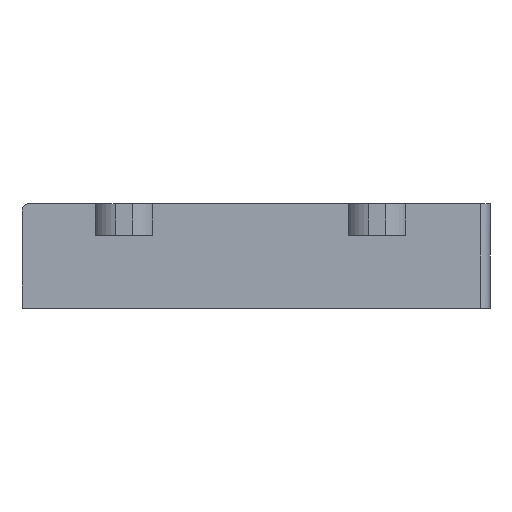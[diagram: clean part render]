
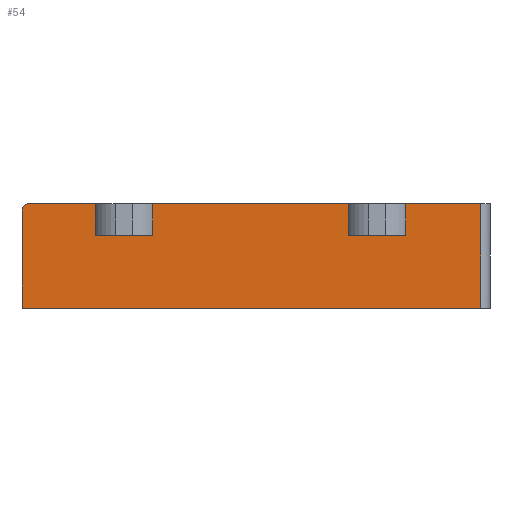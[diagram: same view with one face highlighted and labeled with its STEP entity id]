
A CAD part, front view. The second image highlights one B-rep face of the part: STEP entity #54.
In plain terms, the highlighted planar face has unit normal (0, -1, 0).
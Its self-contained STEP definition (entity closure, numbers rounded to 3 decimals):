
#54=ADVANCED_FACE('0:33',(#90),#91,.F.);
#90=FACE_OUTER_BOUND('',#153,.T.);
#91=PLANE('',#154);
#153=EDGE_LOOP('',(#12889,#12890,#12891,#12892,#12893,#12894,#12895,#12896,#12897,#12898,#12899,#12900,#12901));
#154=AXIS2_PLACEMENT_3D('',#12902,#12903,#12904);
#12889=ORIENTED_EDGE('',*,*,#13087,.F.);
#12890=ORIENTED_EDGE('',*,*,#13088,.T.);
#12891=ORIENTED_EDGE('',*,*,#13089,.F.);
#12892=ORIENTED_EDGE('',*,*,#13090,.T.);
#12893=ORIENTED_EDGE('',*,*,#13091,.F.);
#12894=ORIENTED_EDGE('',*,*,#13092,.F.);
#12895=ORIENTED_EDGE('',*,*,#13093,.T.);
#12896=ORIENTED_EDGE('',*,*,#13094,.F.);
#12897=ORIENTED_EDGE('',*,*,#13095,.F.);
#12898=ORIENTED_EDGE('',*,*,#13096,.F.);
#12899=ORIENTED_EDGE('',*,*,#13083,.T.);
#12900=ORIENTED_EDGE('',*,*,#13097,.F.);
#12901=ORIENTED_EDGE('',*,*,#13098,.T.);
#12902=CARTESIAN_POINT('',(2253.306,154.23,1045.92));
#12903=DIRECTION('',(0.0,1.0,0.0));
#12904=DIRECTION('',(1.0,0.0,-0.0));
#13083=EDGE_CURVE('0:132',#13170,#13171,#13172,.T.);
#13087=EDGE_CURVE('0:144',#13178,#13179,#13180,.F.);
#13088=EDGE_CURVE('0:147',#13178,#13181,#13182,.T.);
#13089=EDGE_CURVE('0:150',#13183,#13181,#13184,.T.);
#13090=EDGE_CURVE('0:153',#13183,#13185,#13186,.T.);
#13091=EDGE_CURVE('0:156',#13187,#13185,#13188,.F.);
#13092=EDGE_CURVE('0:159',#13189,#13187,#13190,.T.);
#13093=EDGE_CURVE('0:162',#13189,#13191,#13192,.T.);
#13094=EDGE_CURVE('0:165',#13193,#13191,#13194,.T.);
#13095=EDGE_CURVE('0:168',#13195,#13193,#13196,.T.);
#13096=EDGE_CURVE('0:171',#13170,#13195,#13197,.T.);
#13097=EDGE_CURVE('0:174',#13198,#13171,#13199,.T.);
#13098=EDGE_CURVE('0:177',#13198,#13179,#13200,.T.);
#13170=VERTEX_POINT('',#13511);
#13171=VERTEX_POINT('',#13512);
#13172=LINE('',#13513,#13514);
#13178=VERTEX_POINT('',#13521);
#13179=VERTEX_POINT('',#13522);
#13180=LINE('',#13523,#13524);
#13181=VERTEX_POINT('',#13525);
#13182=LINE('',#13526,#13527);
#13183=VERTEX_POINT('',#13528);
#13184=LINE('',#13529,#13530);
#13185=VERTEX_POINT('',#13531);
#13186=LINE('',#13532,#13533);
#13187=VERTEX_POINT('',#13534);
#13188=LINE('',#13535,#13536);
#13189=VERTEX_POINT('',#13537);
#13190=B_SPLINE_CURVE_WITH_KNOTS('',3,(#13538,#13539,#13540,#13541,#13542,#13543,#13544,#13545,#13546,#13547,#13548,#13549,#13550,#13551,#13552,#13553,#13554,#13555,#13556,#13557,#13558,#13559,#13560,#13561,#13562,#13563,#13564,#13565,#13566,#13567,#13568,#13569,#13570,#13571,#13572,#13573,#13574,#13575,#13576,#13577,#13578,#13579,#13580,#13581,#13582,#13583,#13584,#13585,#13586,#13587,#13588,#13589),.UNSPECIFIED.,.F.,.F.,(4,3,3,3,3,3,3,3,3,3,3,3,3,3,3,3,3,4),(0.,0.001,0.001,0.002,0.002,0.003,0.003,0.003,0.004,0.004,0.005,0.005,0.006,0.006,0.006,0.007,0.007,0.008),.UNSPECIFIED.);
#13191=VERTEX_POINT('',#13590);
#13192=LINE('',#13591,#13592);
#13193=VERTEX_POINT('',#13593);
#13194=LINE('',#13594,#13595);
#13195=VERTEX_POINT('NONE',#13596);
#13196=LINE('',#13597,#13598);
#13197=LINE('',#13599,#13600);
#13198=VERTEX_POINT('',#13601);
#13199=LINE('',#13602,#13603);
#13200=LINE('',#13604,#13605);
#13511=CARTESIAN_POINT('',(1497.84,154.23,1045.92));
#13512=CARTESIAN_POINT('',(1497.84,154.23,730.92));
#13513=CARTESIAN_POINT('',(1497.84,154.23,1255.92));
#13514=VECTOR('',#14677,0.001);
#13521=CARTESIAN_POINT('',(-1035.233,154.23,1045.92));
#13522=CARTESIAN_POINT('',(926.263,154.23,1045.92));
#13523=CARTESIAN_POINT('',(1732.679,154.23,1045.92));
#13524=VECTOR('',#14685,0.001);
#13525=CARTESIAN_POINT('',(-1035.233,154.23,730.92));
#13526=CARTESIAN_POINT('',(-1035.233,154.23,1255.92));
#13527=VECTOR('',#14686,0.001);
#13528=CARTESIAN_POINT('',(-1606.81,154.23,730.92));
#13529=CARTESIAN_POINT('',(466.142,154.23,730.92));
#13530=VECTOR('',#14687,0.015);
#13531=CARTESIAN_POINT('',(-1606.81,154.23,1045.92));
#13532=CARTESIAN_POINT('',(-1606.81,154.23,1255.92));
#13533=VECTOR('',#14688,0.001);
#13534=CARTESIAN_POINT('',(-2267.786,154.23,1045.92));
#13535=CARTESIAN_POINT('',(466.142,154.23,1045.92));
#13536=VECTOR('',#14689,0.001);
#13537=CARTESIAN_POINT('',(-2342.787,154.23,970.92));
#13538=CARTESIAN_POINT('',(-2342.787,154.23,970.92));
#13539=CARTESIAN_POINT('',(-2342.787,154.23,973.731));
#13540=CARTESIAN_POINT('',(-2342.629,154.23,976.535));
#13541=CARTESIAN_POINT('',(-2342.316,154.23,979.317));
#13542=CARTESIAN_POINT('',(-2342.001,154.23,982.106));
#13543=CARTESIAN_POINT('',(-2341.531,154.23,984.875));
#13544=CARTESIAN_POINT('',(-2340.907,154.23,987.609));
#13545=CARTESIAN_POINT('',(-2340.283,154.23,990.341));
#13546=CARTESIAN_POINT('',(-2339.506,154.23,993.04));
#13547=CARTESIAN_POINT('',(-2338.578,154.23,995.691));
#13548=CARTESIAN_POINT('',(-2337.653,154.23,998.336));
#13549=CARTESIAN_POINT('',(-2336.575,154.23,1000.937));
#13550=CARTESIAN_POINT('',(-2335.36,154.23,1003.461));
#13551=CARTESIAN_POINT('',(-2334.141,154.23,1005.992));
#13552=CARTESIAN_POINT('',(-2332.782,154.23,1008.449));
#13553=CARTESIAN_POINT('',(-2331.291,154.23,1010.822));
#13554=CARTESIAN_POINT('',(-2331.084,154.23,1011.152));
#13555=CARTESIAN_POINT('',(-2330.875,154.23,1011.479));
#13556=CARTESIAN_POINT('',(-2330.663,154.23,1011.805));
#13557=CARTESIAN_POINT('',(-2329.346,154.23,1013.83));
#13558=CARTESIAN_POINT('',(-2327.932,154.23,1015.791));
#13559=CARTESIAN_POINT('',(-2326.424,154.23,1017.682));
#13560=CARTESIAN_POINT('',(-2324.865,154.23,1019.637));
#13561=CARTESIAN_POINT('',(-2323.205,154.23,1021.517));
#13562=CARTESIAN_POINT('',(-2321.452,154.23,1023.313));
#13563=CARTESIAN_POINT('',(-2321.242,154.23,1023.528));
#13564=CARTESIAN_POINT('',(-2321.032,154.23,1023.741));
#13565=CARTESIAN_POINT('',(-2320.82,154.23,1023.953));
#13566=CARTESIAN_POINT('',(-2318.832,154.23,1025.941));
#13567=CARTESIAN_POINT('',(-2316.738,154.23,1027.811));
#13568=CARTESIAN_POINT('',(-2314.548,154.23,1029.557));
#13569=CARTESIAN_POINT('',(-2312.354,154.23,1031.307));
#13570=CARTESIAN_POINT('',(-2310.064,154.23,1032.932));
#13571=CARTESIAN_POINT('',(-2307.689,154.23,1034.424));
#13572=CARTESIAN_POINT('',(-2305.316,154.23,1035.915));
#13573=CARTESIAN_POINT('',(-2302.859,154.23,1037.274));
#13574=CARTESIAN_POINT('',(-2300.328,154.23,1038.493));
#13575=CARTESIAN_POINT('',(-2299.775,154.23,1038.759));
#13576=CARTESIAN_POINT('',(-2299.219,154.23,1039.018));
#13577=CARTESIAN_POINT('',(-2298.659,154.23,1039.271));
#13578=CARTESIAN_POINT('',(-2296.663,154.23,1040.173));
#13579=CARTESIAN_POINT('',(-2294.625,154.23,1040.988));
#13580=CARTESIAN_POINT('',(-2292.557,154.23,1041.711));
#13581=CARTESIAN_POINT('',(-2289.91,154.23,1042.638));
#13582=CARTESIAN_POINT('',(-2287.212,154.23,1043.415));
#13583=CARTESIAN_POINT('',(-2284.475,154.23,1044.04));
#13584=CARTESIAN_POINT('',(-2281.74,154.23,1044.664));
#13585=CARTESIAN_POINT('',(-2278.969,154.23,1045.135));
#13586=CARTESIAN_POINT('',(-2276.184,154.23,1045.448));
#13587=CARTESIAN_POINT('',(-2273.397,154.23,1045.762));
#13588=CARTESIAN_POINT('',(-2270.594,154.23,1045.92));
#13589=CARTESIAN_POINT('',(-2267.786,154.23,1045.92));
#13590=CARTESIAN_POINT('',(-2342.787,154.23,0.0));
#13591=CARTESIAN_POINT('',(-2342.787,154.23,1045.92));
#13592=VECTOR('',#14690,0.015);
#13593=CARTESIAN_POINT('',(2253.306,154.23,0.0));
#13594=CARTESIAN_POINT('',(1126.653,154.23,0.0));
#13595=VECTOR('',#14691,0.001);
#13596=CARTESIAN_POINT('',(2253.306,154.23,1045.92));
#13597=CARTESIAN_POINT('',(2253.306,154.23,1045.92));
#13598=VECTOR('',#14692,0.015);
#13599=CARTESIAN_POINT('',(2253.306,154.23,1045.92));
#13600=VECTOR('',#14693,0.015);
#13601=CARTESIAN_POINT('',(926.263,154.23,730.92));
#13602=CARTESIAN_POINT('',(2253.306,154.23,730.92));
#13603=VECTOR('',#14694,0.015);
#13604=CARTESIAN_POINT('',(926.263,154.23,1255.92));
#13605=VECTOR('',#14695,0.001);
#14677=DIRECTION('',(-0.0,-0.0,-1.0));
#14685=DIRECTION('',(-1.0,0.0,0.0));
#14686=DIRECTION('',(-0.0,-0.0,-1.0));
#14687=DIRECTION('',(1.0,0.0,0.0));
#14688=DIRECTION('',(0.0,0.0,1.0));
#14689=DIRECTION('',(-1.0,0.0,0.0));
#14690=DIRECTION('',(-0.0,-0.0,-1.0));
#14691=DIRECTION('',(-1.0,0.0,0.0));
#14692=DIRECTION('',(-0.0,-0.0,-1.0));
#14693=DIRECTION('',(1.0,0.0,0.0));
#14694=DIRECTION('',(1.0,0.0,0.0));
#14695=DIRECTION('',(0.0,0.0,1.0));
